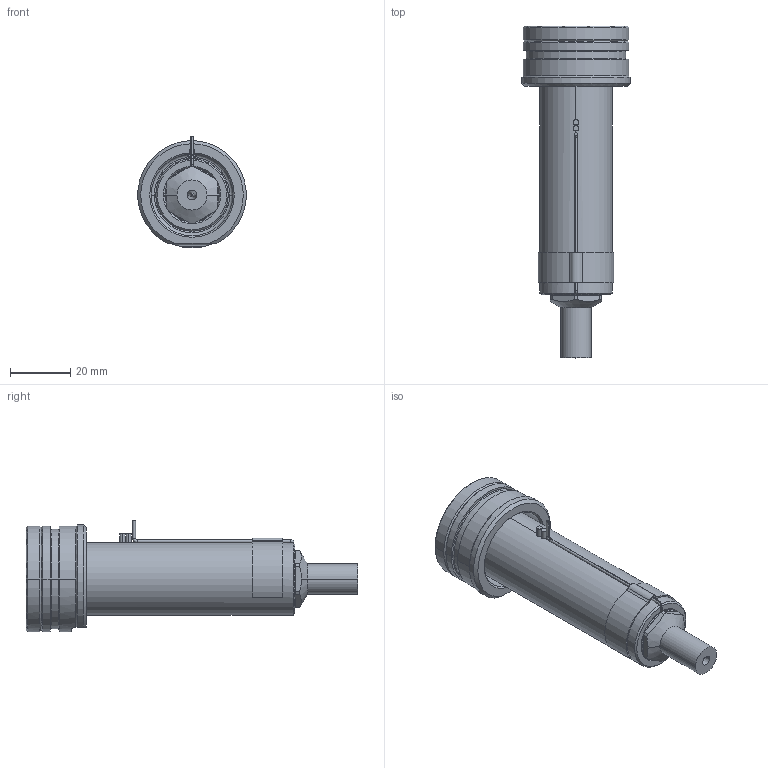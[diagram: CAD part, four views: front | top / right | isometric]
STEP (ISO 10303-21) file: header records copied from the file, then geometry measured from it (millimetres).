
FILE_DESCRIPTION((''),'2;1');
FILE_NAME('EO06_PG-FBE_STD_080_SW','2024-02-19T11:49:46',('sundharh'),(''),'CREO PARAMETRIC BY PTC INC, 2023154','CREO PARAMETRIC BY PTC INC, 2023154','');
FILE_SCHEMA(('CONFIG_CONTROL_DESIGN'));
Length unit declared in the file: millimetre
Products named in the file (1): EO06_PG-FBE_STD_080_SW
Bounding box: 35.93 x 110 x 37 mm (x, y, z)
Volume: 48351 mm3; surface area: 15615.4 mm2
Topology: 2 solids, 2 shells, 212 faces, 568 edges, 348 vertices
Faces by surface type: cylinder 85, plane 55, cone 42, torus 21, bspline 6, sphere 3
Entity records: 7577 total; most frequent: CARTESIAN_POINT 2189, DIRECTION 1189, ORIENTED_EDGE 1120, EDGE_CURVE 560, AXIS2_PLACEMENT_3D 500, VERTEX_POINT 348, CIRCLE 294, EDGE_LOOP 228
